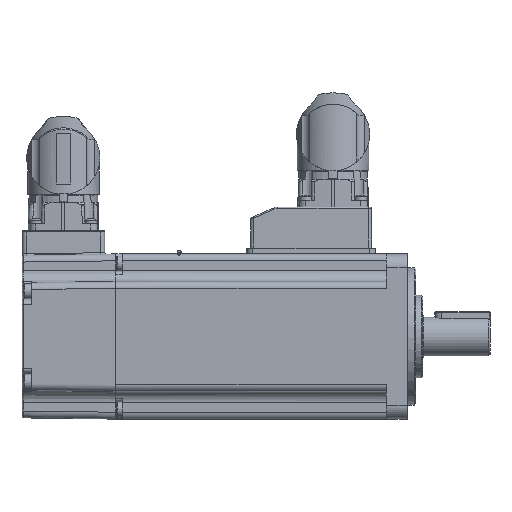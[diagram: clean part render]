
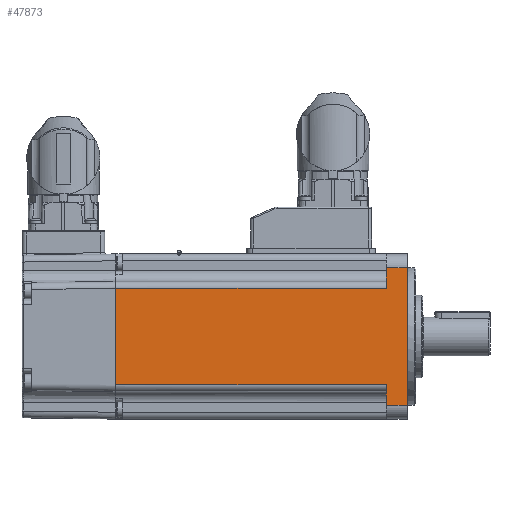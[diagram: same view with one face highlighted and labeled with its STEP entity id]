
A CAD part, left-side view. The second image highlights one B-rep face of the part: STEP entity #47873.
In plain terms, the highlighted planar face has unit normal (-1, 0, 0).
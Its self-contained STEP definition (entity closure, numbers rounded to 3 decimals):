
#1928=LINE('',#71941,#5268);
#1951=LINE('',#72021,#5291);
#1952=LINE('',#72025,#5292);
#1953=LINE('',#72028,#5293);
#1954=LINE('',#72030,#5294);
#1955=LINE('',#72032,#5295);
#1956=LINE('',#72034,#5296);
#1957=LINE('',#72035,#5297);
#5268=VECTOR('',#57249,1000.);
#5291=VECTOR('',#57312,1000.);
#5292=VECTOR('',#57317,1000.);
#5293=VECTOR('',#57318,1000.);
#5294=VECTOR('',#57319,1000.);
#5295=VECTOR('',#57320,1000.);
#5296=VECTOR('',#57321,1000.);
#5297=VECTOR('',#57322,1000.);
#8859=PLANE('',#51305);
#11842=ORIENTED_EDGE('',*,*,#25458,.T.);
#11843=ORIENTED_EDGE('',*,*,#25459,.T.);
#11844=ORIENTED_EDGE('',*,*,#25460,.T.);
#11845=ORIENTED_EDGE('',*,*,#25461,.F.);
#11846=ORIENTED_EDGE('',*,*,#25462,.T.);
#11847=ORIENTED_EDGE('',*,*,#25416,.T.);
#11848=ORIENTED_EDGE('',*,*,#25456,.T.);
#11849=ORIENTED_EDGE('',*,*,#25463,.F.);
#25416=EDGE_CURVE('',#38915,#38914,#1928,.T.);
#25456=EDGE_CURVE('',#38914,#38952,#1951,.F.);
#25458=EDGE_CURVE('',#38953,#38954,#1952,.T.);
#25459=EDGE_CURVE('',#38954,#38955,#1953,.T.);
#25460=EDGE_CURVE('',#38955,#38956,#1954,.T.);
#25461=EDGE_CURVE('',#38957,#38956,#1955,.T.);
#25462=EDGE_CURVE('',#38957,#38915,#1956,.T.);
#25463=EDGE_CURVE('',#38953,#38952,#1957,.T.);
#34661=EDGE_LOOP('',(#11842,#11843,#11844,#11845,#11846,#11847,#11848,#11849));
#38914=VERTEX_POINT('',#71940);
#38915=VERTEX_POINT('',#71942);
#38952=VERTEX_POINT('',#72022);
#38953=VERTEX_POINT('',#72026);
#38954=VERTEX_POINT('',#72027);
#38955=VERTEX_POINT('',#72029);
#38956=VERTEX_POINT('',#72031);
#38957=VERTEX_POINT('',#72033);
#43810=FACE_BOUND('',#34661,.T.);
#47873=ADVANCED_FACE('',(#43810),#8859,.T.);
#51305=AXIS2_PLACEMENT_3D('',#72024,#57315,#57316);
#57249=DIRECTION('',(0.,0.,1.));
#57312=DIRECTION('',(0.,-1.,0.));
#57315=DIRECTION('',(-1.,0.,0.));
#57316=DIRECTION('',(0.,0.,1.));
#57317=DIRECTION('',(0.,1.,0.));
#57318=DIRECTION('',(0.,0.,-1.));
#57319=DIRECTION('',(0.,-1.,0.));
#57320=DIRECTION('',(0.,0.,1.));
#57321=DIRECTION('',(0.,-1.,0.));
#57322=DIRECTION('',(0.,0.,1.));
#71940=CARTESIAN_POINT('',(-30.,0.7,25.));
#71941=CARTESIAN_POINT('',(-30.,0.7,30.));
#71942=CARTESIAN_POINT('',(-30.,0.7,-25.));
#72021=CARTESIAN_POINT('',(-30.,170.145,25.));
#72022=CARTESIAN_POINT('',(-30.,8.3,25.));
#72024=CARTESIAN_POINT('',(-30.,170.145,30.));
#72025=CARTESIAN_POINT('',(-30.,170.145,17.5));
#72026=CARTESIAN_POINT('',(-30.,8.3,17.5));
#72027=CARTESIAN_POINT('',(-30.,106.7,17.5));
#72028=CARTESIAN_POINT('',(-30.,106.7,-30.));
#72029=CARTESIAN_POINT('',(-30.,106.7,-17.5));
#72030=CARTESIAN_POINT('',(-30.,170.145,-17.5));
#72031=CARTESIAN_POINT('',(-30.,8.3,-17.5));
#72032=CARTESIAN_POINT('',(-30.,8.3,30.));
#72033=CARTESIAN_POINT('',(-30.,8.3,-25.));
#72034=CARTESIAN_POINT('',(-30.,170.145,-25.));
#72035=CARTESIAN_POINT('',(-30.,8.3,30.));
